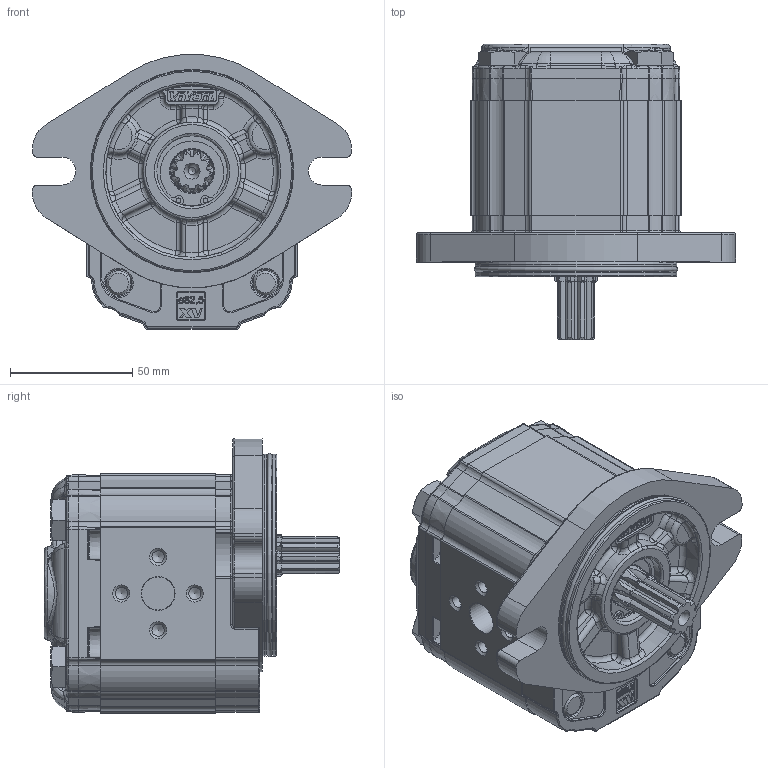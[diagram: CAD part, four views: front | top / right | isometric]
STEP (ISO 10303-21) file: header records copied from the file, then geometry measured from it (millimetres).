
FILE_DESCRIPTION(/* description */ ('Unknown'),/* implementation_level */ '2;1');
FILE_NAME(/* name */ 'X2U4151IOOA',/* time_stamp */ '2021-04-14T20:31:10+02:00',/* author */ ('Unknown'),/* organization */ ('Unknown'),/* preprocessor_version */ 'ST-DEVELOPER v16.7',/* originating_system */ 'Solid Edge',/* authorisation */ 'Unknown');
FILE_SCHEMA (('AUTOMOTIVE_DESIGN {1 0 10303 214 3 1 1}'));
Products named in the file (5): X2U4151IOOA; X2U51; 2I; X2OOH47; XU219-A
Assembly tree (4 placements, depth 2):
  X2U4151IOOA
    X2U51
    2I
    X2OOH47
    XU219-A
Bounding box: 130.38 x 120.7 x 112.3 mm (x, y, z)
Volume: 661048.2 mm3; surface area: 110458.1 mm2
Topology: 4 solids, 5 shells, 2230 faces, 5510 edges, 3347 vertices
Faces by surface type: cylinder 660, plane 592, bspline 537, torus 286, cone 117, sphere 38
Full cylindrical faces by diameter (mm): 2 x2, 4.917 x4, 5 x4, 10 x4, 10.5 x4, 11 x2, 11.5 x4, 13.5 x2, 16 x4, 17.42 x1, 18 x1, 20.595 x1, 23.332 x1, 25.834 x1, 28.5 x1, 28.56 x1, 28.57 x1, 28.8 x1, 30.4 x1, 79.6 x2, 82.5 x2
Entity records: 93010 total; most frequent: CARTESIAN_POINT 30285, ORIENTED_EDGE 10556, DIRECTION 8965, EDGE_CURVE 5278, AXIS2_PLACEMENT_3D 3437, VERTEX_POINT 3273, FACE_BOUND 2461, EDGE_LOOP 2452
